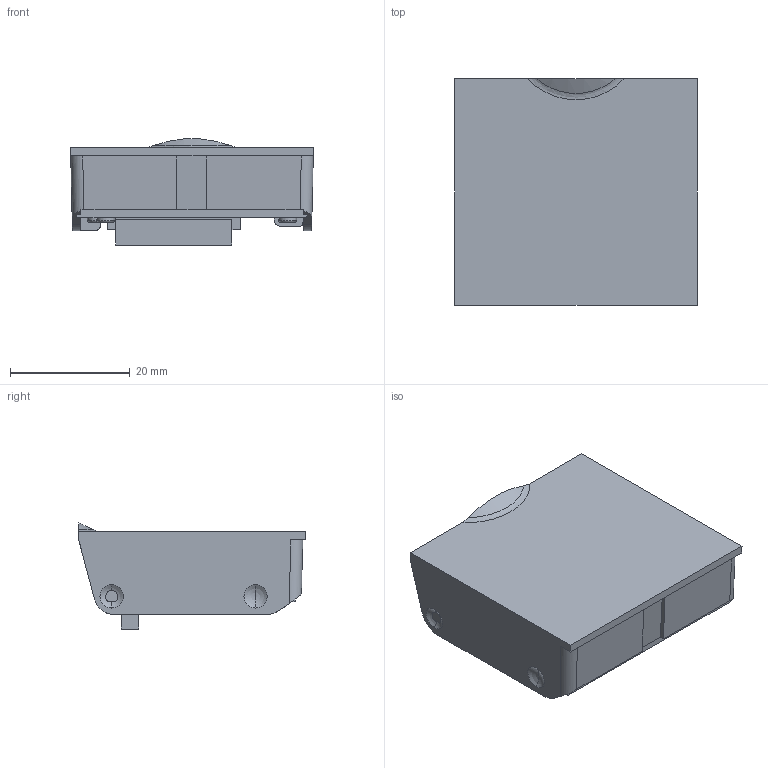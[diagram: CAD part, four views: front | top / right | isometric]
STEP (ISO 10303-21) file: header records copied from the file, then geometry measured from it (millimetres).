
FILE_DESCRIPTION((''),'2;1');
FILE_NAME('PCB-RTCA_1','2022-07-04T13:33:41',('flexem'),(''),'CREO PARAMETRIC BY PTC INC, 2016510','CREO PARAMETRIC BY PTC INC, 2016510','');
FILE_SCHEMA(('CONFIG_CONTROL_DESIGN'));
Length unit declared in the file: millimetre
Products named in the file (1): PCB-RTCA_1
Bounding box: 40.64 x 37.9 x 17.74 mm (x, y, z)
Volume: 16824.2 mm3; surface area: 5572.1 mm2
Topology: 1 solids, 1 shells, 312 faces, 764 edges, 489 vertices
Faces by surface type: plane 210, cylinder 82, sphere 10, torus 7, cone 3
Entity records: 9435 total; most frequent: CARTESIAN_POINT 2069, ORIENTED_EDGE 1516, DIRECTION 1473, EDGE_CURVE 758, VECTOR 519, LINE 519, VERTEX_POINT 489, AXIS2_PLACEMENT_3D 477
